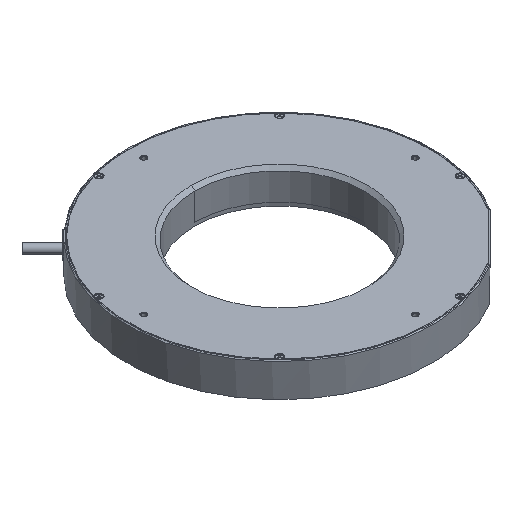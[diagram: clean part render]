
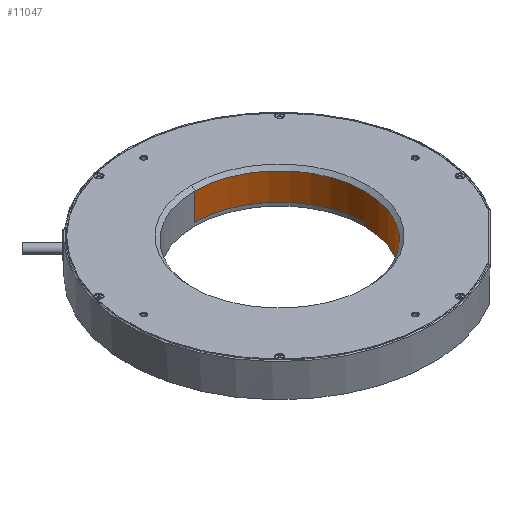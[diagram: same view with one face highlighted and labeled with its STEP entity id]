
A CAD part, isometric view. The second image highlights one B-rep face of the part: STEP entity #11047.
In plain terms, the highlighted cylindrical face has radius 50 mm (diameter 100 mm), a partial arc.
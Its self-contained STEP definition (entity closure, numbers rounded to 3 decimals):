
#388=CARTESIAN_POINT('',(0.,0.,-18.));
#389=DIRECTION('',(0.,0.,1.));
#390=DIRECTION('',(-1.,0.,0.));
#391=AXIS2_PLACEMENT_3D('',#388,#389,#390);
#1987=DIRECTION('',(0.,0.,-1.));
#1988=VECTOR('',#1987,16.);
#1989=CARTESIAN_POINT('',(0.,50.,0.));
#1990=LINE('',#1989,#1988);
#1991=CARTESIAN_POINT('',(0.,0.,-16.));
#1992=DIRECTION('',(0.,0.,-1.));
#1993=DIRECTION('',(0.,1.,0.));
#1994=AXIS2_PLACEMENT_3D('',#1991,#1992,#1993);
#1996=DIRECTION('',(0.,0.,1.));
#1997=VECTOR('',#1996,2.);
#1998=CARTESIAN_POINT('',(50.,0.,-18.));
#1999=LINE('',#1998,#1997);
#2000=DIRECTION('',(0.,0.,-1.));
#2001=VECTOR('',#2000,2.);
#2002=CARTESIAN_POINT('',(-50.,0.,-16.));
#2003=LINE('',#2002,#2001);
#2004=DIRECTION('',(0.,0.,1.));
#2005=VECTOR('',#2004,16.);
#2006=CARTESIAN_POINT('',(0.,-50.,-16.));
#2007=LINE('',#2006,#2005);
#2008=CARTESIAN_POINT('',(0.,0.,-16.));
#2009=DIRECTION('',(0.,0.,-1.));
#2010=DIRECTION('',(0.,-1.,0.));
#2011=AXIS2_PLACEMENT_3D('',#2008,#2009,#2010);
#2013=CARTESIAN_POINT('',(0.,0.,0.));
#2014=DIRECTION('',(0.,0.,-1.));
#2015=DIRECTION('',(0.,1.,0.));
#2016=AXIS2_PLACEMENT_3D('',#2013,#2014,#2015);
#6757=CARTESIAN_POINT('',(0.,50.,0.));
#6758=CARTESIAN_POINT('',(0.,-50.,0.));
#6759=VERTEX_POINT('',#6757);
#6760=VERTEX_POINT('',#6758);
#6805=CARTESIAN_POINT('',(-50.,0.,-18.));
#6806=CARTESIAN_POINT('',(50.,0.,-18.));
#6807=VERTEX_POINT('',#6805);
#6808=VERTEX_POINT('',#6806);
#8002=CARTESIAN_POINT('',(0.,50.,-16.));
#8003=CARTESIAN_POINT('',(50.,0.,-16.));
#8004=VERTEX_POINT('',#8002);
#8005=VERTEX_POINT('',#8003);
#8006=CARTESIAN_POINT('',(0.,-50.,-16.));
#8007=CARTESIAN_POINT('',(-50.,0.,-16.));
#8008=VERTEX_POINT('',#8006);
#8009=VERTEX_POINT('',#8007);
#11031=CARTESIAN_POINT('',(0.,0.,2.585));
#11032=DIRECTION('',(0.,0.,-1.));
#11033=DIRECTION('',(0.,-1.,0.));
#11034=AXIS2_PLACEMENT_3D('',#11031,#11032,#11033);
#11035=CYLINDRICAL_SURFACE('',#11034,50.);
#11036=ORIENTED_EDGE('',*,*,#11024,.F.);
#11037=ORIENTED_EDGE('',*,*,#11022,.T.);
#11038=ORIENTED_EDGE('',*,*,#11020,.T.);
#11039=ORIENTED_EDGE('',*,*,#8559,.T.);
#11040=ORIENTED_EDGE('',*,*,#11017,.T.);
#11041=ORIENTED_EDGE('',*,*,#11015,.F.);
#11042=ORIENTED_EDGE('',*,*,#11013,.F.);
#11044=ORIENTED_EDGE('',*,*,#11043,.T.);
#11045=EDGE_LOOP('',(#11036,#11037,#11038,#11039,#11040,#11041,#11042,#11044));
#11046=FACE_OUTER_BOUND('',#11045,.F.);
#11047=ADVANCED_FACE('',(#11046),#11035,.F.);
#392=CIRCLE('',#391,50.);
#1995=CIRCLE('',#1994,50.);
#2012=CIRCLE('',#2011,50.);
#2017=CIRCLE('',#2016,50.);
#8559=EDGE_CURVE('',#6807,#6808,#392,.T.);
#11013=EDGE_CURVE('',#6759,#8004,#1990,.T.);
#11015=EDGE_CURVE('',#8004,#8005,#1995,.T.);
#11017=EDGE_CURVE('',#6808,#8005,#1999,.T.);
#11020=EDGE_CURVE('',#8009,#6807,#2003,.T.);
#11022=EDGE_CURVE('',#8008,#8009,#2012,.T.);
#11024=EDGE_CURVE('',#8008,#6760,#2007,.T.);
#11043=EDGE_CURVE('',#6759,#6760,#2017,.T.);
